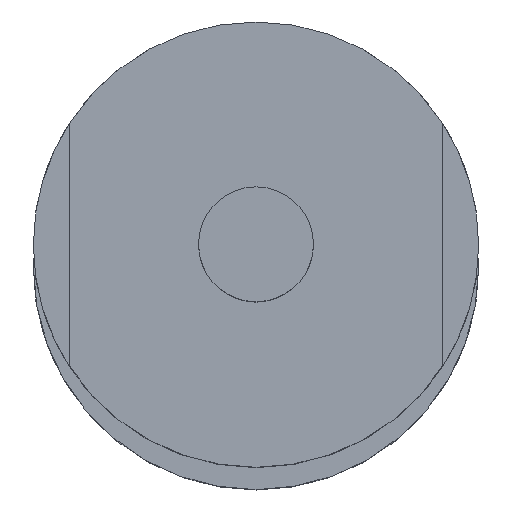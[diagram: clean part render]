
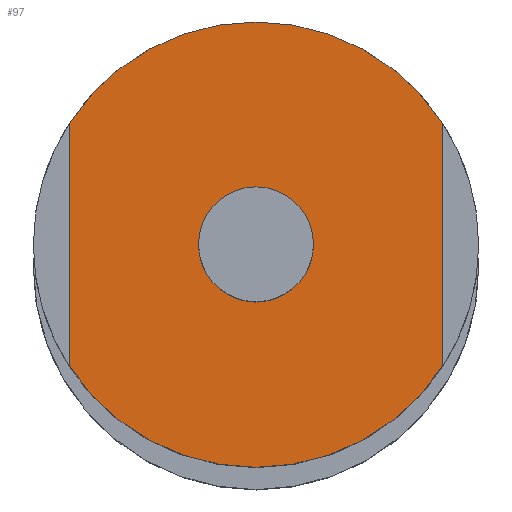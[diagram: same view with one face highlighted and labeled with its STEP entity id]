
A CAD part, top view. The second image highlights one B-rep face of the part: STEP entity #97.
In plain terms, the highlighted planar face has unit normal (0, 0, 1).
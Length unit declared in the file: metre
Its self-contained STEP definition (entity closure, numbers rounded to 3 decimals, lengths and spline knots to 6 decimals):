
#97=ADVANCED_FACE('0:66',(#196,#197),#198,.T.);
#196=FACE_OUTER_BOUND('',#314,.T.);
#197=FACE_BOUND('',#315,.T.);
#198=PLANE('',#316);
#314=EDGE_LOOP('',(#480,#481,#482,#483));
#315=EDGE_LOOP('',(#484,#485));
#316=AXIS2_PLACEMENT_3D('',#486,#487,#488);
#480=ORIENTED_EDGE('',*,*,#678,.T.);
#481=ORIENTED_EDGE('',*,*,#655,.F.);
#482=ORIENTED_EDGE('',*,*,#674,.F.);
#483=ORIENTED_EDGE('',*,*,#684,.F.);
#484=ORIENTED_EDGE('',*,*,#669,.T.);
#485=ORIENTED_EDGE('',*,*,#667,.T.);
#486=CARTESIAN_POINT('',(0.0,0.0,3.265));
#487=DIRECTION('',(0.0,0.0,1.0));
#488=DIRECTION('',(1.0,0.0,0.0));
#655=EDGE_CURVE('0:93',#782,#784,#785,.F.);
#667=EDGE_CURVE('',#800,#804,#806,.F.);
#669=EDGE_CURVE('0:81',#804,#800,#808,.F.);
#674=EDGE_CURVE('0:168',#813,#782,#815,.F.);
#678=EDGE_CURVE('0:174',#817,#784,#821,.T.);
#684=EDGE_CURVE('0:105',#817,#813,#827,.F.);
#782=VERTEX_POINT('',#961);
#784=VERTEX_POINT('',#964);
#785=CIRCLE('',#965,0.0155);
#800=VERTEX_POINT('',#983);
#804=VERTEX_POINT('',#988);
#806=CIRCLE('',#991,0.004);
#808=CIRCLE('',#993,0.004);
#813=VERTEX_POINT('',#999);
#815=LINE('',#1002,#1003);
#817=VERTEX_POINT('',#1005);
#821=LINE('',#1011,#1012);
#827=CIRCLE('',#1018,0.0155);
#961=CARTESIAN_POINT('',(-0.013092,0.008536,3.265));
#964=CARTESIAN_POINT('',(0.012908,0.008536,3.265));
#965=AXIS2_PLACEMENT_3D('',#1155,#1156,#1157);
#983=CARTESIAN_POINT('',(0.003908,0.000095,3.265));
#988=CARTESIAN_POINT('',(-0.004092,0.000095,3.265));
#991=AXIS2_PLACEMENT_3D('',#1175,#1176,#1177);
#993=AXIS2_PLACEMENT_3D('',#1178,#1179,#1180);
#999=CARTESIAN_POINT('',(-0.013092,-0.008346,3.265));
#1002=CARTESIAN_POINT('',(-0.013092,0.000048,3.265));
#1003=VECTOR('',#1186,1.0);
#1005=CARTESIAN_POINT('',(0.012908,-0.008346,3.265));
#1011=CARTESIAN_POINT('',(0.012908,0.000048,3.265));
#1012=VECTOR('',#1189,1.0);
#1018=AXIS2_PLACEMENT_3D('',#1199,#1200,#1201);
#1155=CARTESIAN_POINT('',(-0.000092,0.000095,3.265));
#1156=DIRECTION('',(0.0,0.0,1.0));
#1157=DIRECTION('',(1.0,0.0,0.0));
#1175=CARTESIAN_POINT('',(-0.000092,0.000095,3.265));
#1176=DIRECTION('',(0.0,0.0,1.0));
#1177=DIRECTION('',(1.0,0.0,0.0));
#1178=CARTESIAN_POINT('',(-0.000092,0.000095,3.265));
#1179=DIRECTION('',(0.0,0.0,1.0));
#1180=DIRECTION('',(1.0,0.0,0.0));
#1186=DIRECTION('',(0.,-1.0,0.0));
#1189=DIRECTION('',(0.,1.0,0.0));
#1199=CARTESIAN_POINT('',(-0.000092,0.000095,3.265));
#1200=DIRECTION('',(0.0,0.0,1.0));
#1201=DIRECTION('',(1.0,0.0,0.0));
